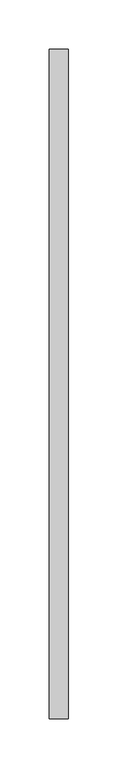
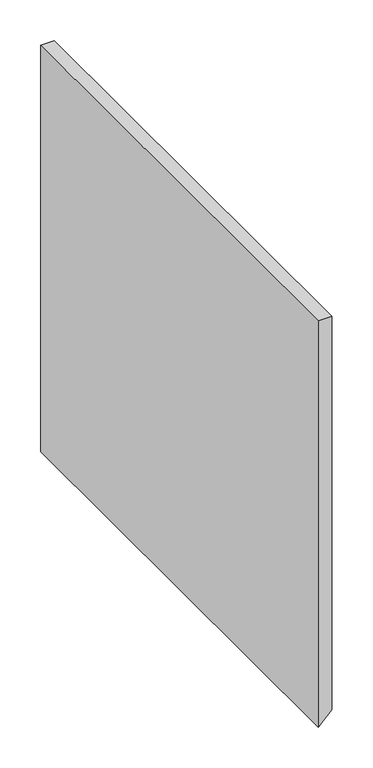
"""IFC4 building model written with IfcOpenShell, lengths in millimetres: proxy geometry, BASYS^CREDENZA 1_INTERNAL DETAILS-LEFT END."""

from ifc_helpers import new_model, si_unit, frame, origin, place, context, project, spatial, polyline, outline, extrude, source, transform, mapped, element, save


def generic_models_07acab32(model_context):
    return source(origin(), model_context, "Body", "SweptSolid", [
        extrude(outline(polyline([(-28.575, 19.05), (-28.575, 0.0), (-635.0, 0.0), (-615.95, 19.05), (-28.575, 19.05)])), frame((0.0, -687.55, 0.0), z_axis=(0.0, 1.0, 0.0), x_axis=(0.0, 0.0, 1.0)), (0.0, 0.0, 1.0), 678.025),
    ])


if __name__ == "__main__":
    model = new_model("IFC4")
    model_context = context("Model", 3, world=origin())
    ifc_project = project(units=[si_unit("LENGTHUNIT", "METRE", prefix="MILLI")], contexts=[model_context])
    site = spatial("IfcSite", under=ifc_project)
    building = spatial("IfcBuilding", under=site)
    placement = place(None, origin())
    generic_models_shape = generic_models_07acab32(model_context)
    element("IfcBuildingElementProxy", 1, Name="BASYS^CREDENZA 1_INTERNAL DETAILS-LEFT END", ObjectType="BASYS^CREDENZA 1_INTERNAL DETAILS-LEFT END", at=placement, inside=building, context=model_context, shape_type="MappedRepresentation", body=[
        mapped(generic_models_shape, transform((0.0, 0.0, 0.0), x_axis=(1.0, 0.0, 0.0), y_axis=(0.0, 1.0, 0.0), z_axis=(0.0, 0.0, 1.0))),
    ])
    save(model, "model.ifc")
